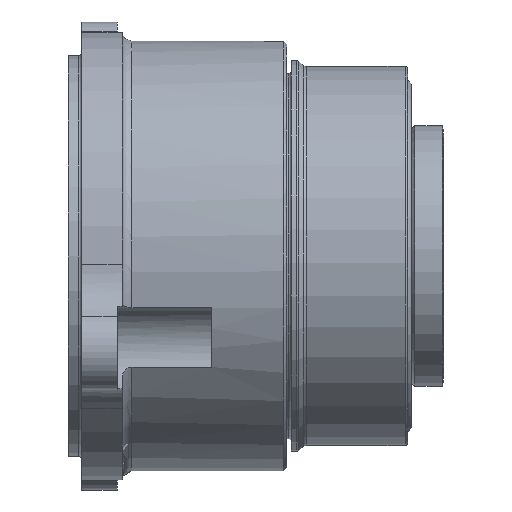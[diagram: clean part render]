
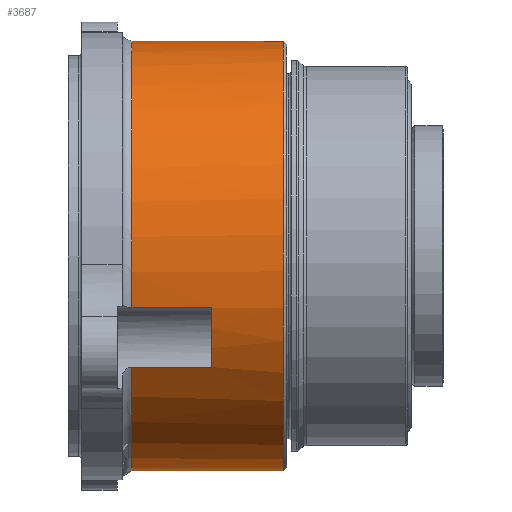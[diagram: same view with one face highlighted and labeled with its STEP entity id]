
A CAD part, left-side view. The second image highlights one B-rep face of the part: STEP entity #3687.
In plain terms, the highlighted cylindrical face has radius 33.528 mm (diameter 67.056 mm), a full revolution.
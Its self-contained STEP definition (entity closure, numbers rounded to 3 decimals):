
#62=LINE('',#5891,#142);
#63=LINE('',#5892,#143);
#68=LINE('',#5936,#148);
#69=LINE('',#5937,#149);
#70=LINE('',#5955,#150);
#71=LINE('',#5956,#151);
#142=VECTOR('',#4558,1000.);
#143=VECTOR('',#4559,1000.);
#148=VECTOR('',#4578,1000.);
#149=VECTOR('',#4579,1000.);
#150=VECTOR('',#4594,1000.);
#151=VECTOR('',#4595,1000.);
#309=CYLINDRICAL_SURFACE('',#3972,33.528);
#627=ORIENTED_EDGE('',*,*,#1091,.F.);
#628=ORIENTED_EDGE('',*,*,#1087,.T.);
#629=ORIENTED_EDGE('',*,*,#1053,.T.);
#630=ORIENTED_EDGE('',*,*,#1086,.T.);
#631=ORIENTED_EDGE('',*,*,#1092,.F.);
#632=ORIENTED_EDGE('',*,*,#1072,.T.);
#633=ORIENTED_EDGE('',*,*,#1055,.T.);
#634=ORIENTED_EDGE('',*,*,#1071,.T.);
#635=ORIENTED_EDGE('',*,*,#1093,.F.);
#636=ORIENTED_EDGE('',*,*,#1094,.F.);
#637=ORIENTED_EDGE('',*,*,#1090,.T.);
#638=ORIENTED_EDGE('',*,*,#1095,.F.);
#639=ORIENTED_EDGE('',*,*,#1051,.T.);
#1051=EDGE_CURVE('',#1331,#1331,#1538,.T.);
#1053=EDGE_CURVE('',#1333,#1332,#1540,.T.);
#1055=EDGE_CURVE('',#1335,#1334,#1542,.T.);
#1071=EDGE_CURVE('',#1334,#1351,#62,.T.);
#1072=EDGE_CURVE('',#1352,#1335,#63,.T.);
#1086=EDGE_CURVE('',#1332,#1363,#68,.T.);
#1087=EDGE_CURVE('',#1364,#1333,#69,.T.);
#1090=EDGE_CURVE('',#1366,#1365,#1553,.T.);
#1091=EDGE_CURVE('',#1364,#1367,#1554,.T.);
#1092=EDGE_CURVE('',#1352,#1363,#1555,.T.);
#1093=EDGE_CURVE('',#1368,#1351,#1556,.T.);
#1094=EDGE_CURVE('',#1366,#1368,#70,.T.);
#1095=EDGE_CURVE('',#1367,#1365,#71,.T.);
#1331=VERTEX_POINT('',#5314);
#1332=VERTEX_POINT('',#5317);
#1333=VERTEX_POINT('',#5318);
#1334=VERTEX_POINT('',#5322);
#1335=VERTEX_POINT('',#5323);
#1351=VERTEX_POINT('',#5890);
#1352=VERTEX_POINT('',#5893);
#1363=VERTEX_POINT('',#5935);
#1364=VERTEX_POINT('',#5938);
#1365=VERTEX_POINT('',#5946);
#1366=VERTEX_POINT('',#5947);
#1367=VERTEX_POINT('',#5951);
#1368=VERTEX_POINT('',#5954);
#1538=CIRCLE('',#3948,33.528);
#1540=CIRCLE('',#3951,33.528);
#1542=CIRCLE('',#3954,33.528);
#1553=CIRCLE('',#3971,33.528);
#1554=CIRCLE('',#3973,33.528);
#1555=CIRCLE('',#3974,33.528);
#1556=CIRCLE('',#3975,33.528);
#1817=EDGE_LOOP('',(#627,#628,#629,#630,#631,#632,#633,#634,#635,#636,#637,
#638));
#1818=EDGE_LOOP('',(#639));
#2126=FACE_BOUND('',#1817,.T.);
#2127=FACE_BOUND('',#1818,.T.);
#3687=ADVANCED_FACE('',(#2126,#2127),#309,.T.);
#3948=AXIS2_PLACEMENT_3D('',#5313,#4528,#4529);
#3951=AXIS2_PLACEMENT_3D('',#5319,#4534,#4535);
#3954=AXIS2_PLACEMENT_3D('',#5324,#4540,#4541);
#3971=AXIS2_PLACEMENT_3D('',#5948,#4584,#4585);
#3972=AXIS2_PLACEMENT_3D('',#5949,#4586,#4587);
#3973=AXIS2_PLACEMENT_3D('',#5950,#4588,#4589);
#3974=AXIS2_PLACEMENT_3D('',#5952,#4590,#4591);
#3975=AXIS2_PLACEMENT_3D('',#5953,#4592,#4593);
#4528=DIRECTION('',(0.,1.,0.));
#4529=DIRECTION('',(0.,0.,-1.));
#4534=DIRECTION('',(0.,-1.,0.));
#4535=DIRECTION('',(0.,0.,-1.));
#4540=DIRECTION('',(0.,-1.,0.));
#4541=DIRECTION('',(0.,0.,-1.));
#4558=DIRECTION('',(0.,1.,0.));
#4559=DIRECTION('',(0.,-1.,0.));
#4578=DIRECTION('',(0.,1.,0.));
#4579=DIRECTION('',(0.,-1.,0.));
#4584=DIRECTION('',(0.,-1.,0.));
#4585=DIRECTION('',(0.,0.,-1.));
#4586=DIRECTION('',(0.,1.,0.));
#4587=DIRECTION('',(-1.,0.,0.));
#4588=DIRECTION('',(0.,1.,0.));
#4589=DIRECTION('',(-1.,0.,0.));
#4590=DIRECTION('',(0.,1.,0.));
#4591=DIRECTION('',(-1.,0.,0.));
#4592=DIRECTION('',(0.,1.,0.));
#4593=DIRECTION('',(-1.,0.,0.));
#4594=DIRECTION('',(0.,1.,0.));
#4595=DIRECTION('',(0.,-1.,0.));
#5313=CARTESIAN_POINT('',(0.,3.048,0.));
#5314=CARTESIAN_POINT('',(0.,3.048,-33.528));
#5317=CARTESIAN_POINT('',(24.167,14.224,-23.239));
#5318=CARTESIAN_POINT('',(16.193,14.224,-29.359));
#5319=CARTESIAN_POINT('',(0.,14.224,0.));
#5322=CARTESIAN_POINT('',(16.193,14.224,29.359));
#5323=CARTESIAN_POINT('',(24.167,14.224,23.239));
#5324=CARTESIAN_POINT('',(0.,14.224,0.));
#5890=CARTESIAN_POINT('',(16.193,26.67,29.359));
#5891=CARTESIAN_POINT('',(16.193,14.859,29.359));
#5892=CARTESIAN_POINT('',(24.167,14.859,23.239));
#5893=CARTESIAN_POINT('',(24.167,14.529,23.239));
#5935=CARTESIAN_POINT('',(24.167,14.529,-23.239));
#5936=CARTESIAN_POINT('',(24.167,14.859,-23.239));
#5937=CARTESIAN_POINT('',(16.193,14.859,-29.359));
#5938=CARTESIAN_POINT('',(16.193,26.67,-29.359));
#5946=CARTESIAN_POINT('',(-28.703,14.224,-17.329));
#5947=CARTESIAN_POINT('',(-32.549,14.224,-8.042));
#5948=CARTESIAN_POINT('',(0.,14.224,0.));
#5949=CARTESIAN_POINT('',(0.,3.048,0.));
#5950=CARTESIAN_POINT('',(0.,26.67,0.));
#5951=CARTESIAN_POINT('',(-28.703,26.67,-17.329));
#5952=CARTESIAN_POINT('',(0.,14.529,0.));
#5953=CARTESIAN_POINT('',(0.,26.67,0.));
#5954=CARTESIAN_POINT('',(-32.549,26.67,-8.042));
#5955=CARTESIAN_POINT('',(-32.549,21.59,-8.042));
#5956=CARTESIAN_POINT('',(-28.703,21.59,-17.329));
